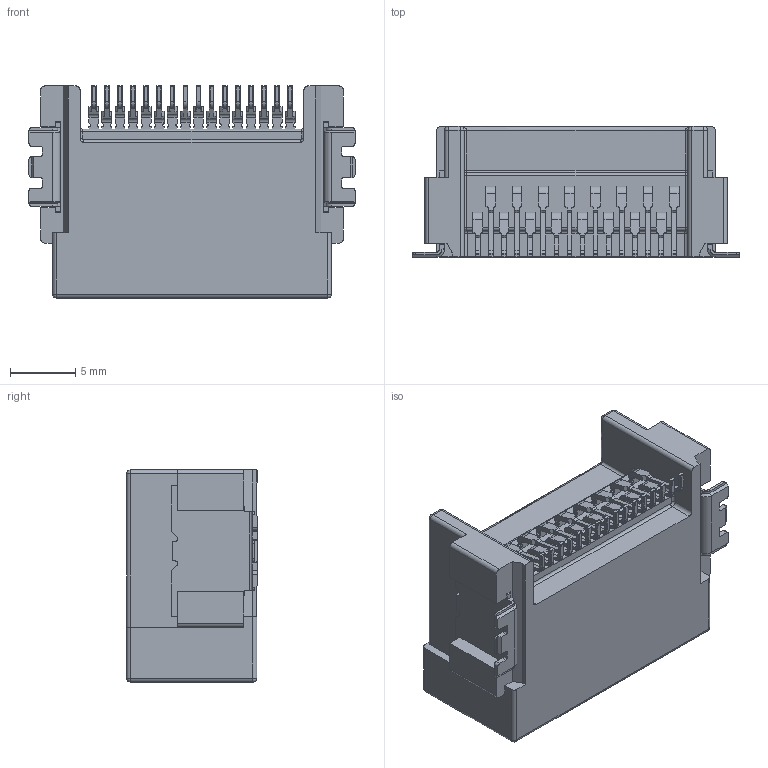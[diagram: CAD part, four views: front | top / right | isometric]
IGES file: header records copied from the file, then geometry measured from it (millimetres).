
Start section: SolidWorks IGES file using analytic representation for surfaces
Global section: file name: C:\Users\08803\Desktop\PDM\ISH全シリーズモデル(STEP)2017.2.6時点\水平\2列\16P\ISH\ISH 16P MALE CONNECTOR.IGS; native system: SolidWorks 2017; preprocessor: SolidWorks 2017; author: 08803; date: 180821.134937; units: millimetre
Bounding box: 24.9 x 10 x 16.2 mm (x, y, z)
Surface area: 1653.7 mm2 (no closed solid volume)
Topology: 0 solids, 0 shells, 911 faces, 5851 edges, 5837 vertices
Faces by surface type: bspline 627, revolution 284
